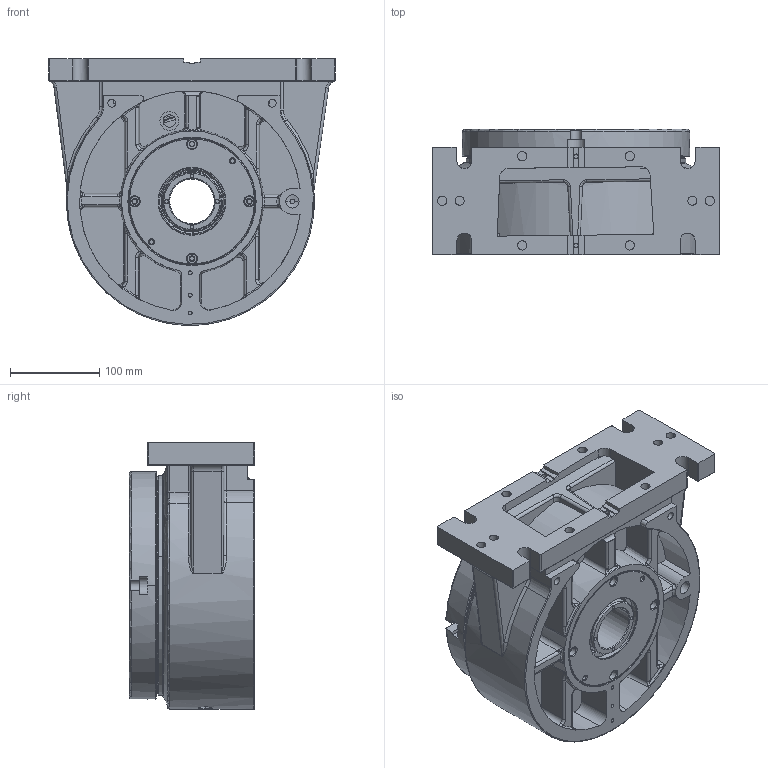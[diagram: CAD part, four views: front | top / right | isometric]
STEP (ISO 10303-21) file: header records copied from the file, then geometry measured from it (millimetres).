
FILE_DESCRIPTION((''),'2;1');
FILE_NAME('255-160-ALL_ASM','2021-04-03T',('Administrator'),(''),'PRO/ENGINEER BY PARAMETRIC TECHNOLOGY CORPORATION, 2011310','PRO/ENGINEER BY PARAMETRIC TECHNOLOGY CORPORATION, 2011310','');
FILE_SCHEMA(('CONFIG_CONTROL_DESIGN'));
Products named in the file (9): 03-ZHU-TI-ZUO_123_; 01-SHA-CHE-HUAN_95_; 02-ZHONG-XIN-ZOU_57_; 06-32014X_10_; 07-GU-DING-PAN-_74_; 08-LUO-MAO_37_; 09-DUAN-GAI_19_; 10-32916; 255-160-ALL_ASM
Assembly tree (8 placements, depth 2):
  255-160-ALL_ASM
    03-ZHU-TI-ZUO_123_
    01-SHA-CHE-HUAN_95_
    02-ZHONG-XIN-ZOU_57_
    06-32014X_10_
    07-GU-DING-PAN-_74_
    08-LUO-MAO_37_
    09-DUAN-GAI_19_
    10-32916
Bounding box: 321 x 140.5 x 299 mm (x, y, z)
Volume: 7189369.7 mm3; surface area: 974459.5 mm2
Topology: 8 solids, 8 shells, 1476 faces, 4241 edges, 2799 vertices
Faces by surface type: cylinder 618, plane 393, cone 266, torus 103, bspline 96
Entity records: 66073 total; most frequent: CARTESIAN_POINT 26885, ORIENTED_EDGE 8482, DIRECTION 8162, EDGE_CURVE 4241, AXIS2_PLACEMENT_3D 3462, VERTEX_POINT 2799, CIRCLE 2065, EDGE_LOOP 1752
